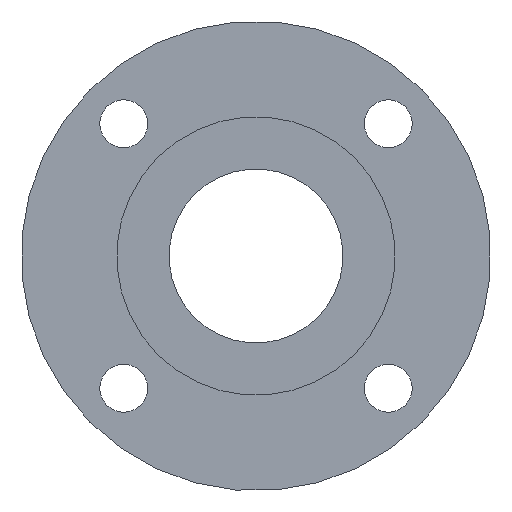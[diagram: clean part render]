
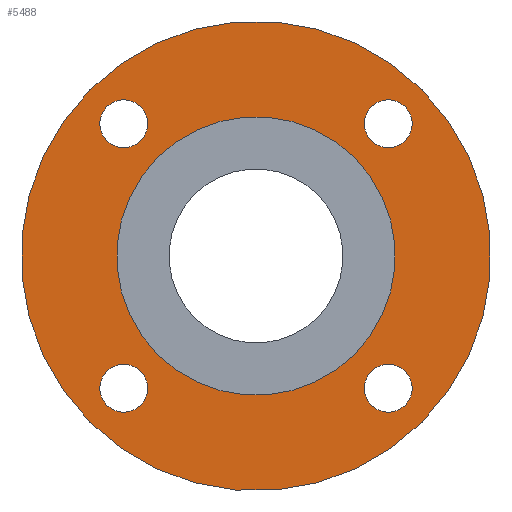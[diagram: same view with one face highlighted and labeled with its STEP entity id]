
A CAD part, left-side view. The second image highlights one B-rep face of the part: STEP entity #5488.
In plain terms, the highlighted planar face has unit normal (-1, 0, 0).
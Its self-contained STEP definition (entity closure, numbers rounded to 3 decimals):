
#109=CIRCLE('',#5838,16.);
#111=CIRCLE('',#5843,2.75);
#112=CIRCLE('',#5844,2.75);
#113=CIRCLE('',#5845,2.75);
#114=CIRCLE('',#5846,2.75);
#115=CIRCLE('',#5847,27.);
#497=ORIENTED_EDGE('',*,*,#2074,.T.);
#498=ORIENTED_EDGE('',*,*,#2075,.T.);
#499=ORIENTED_EDGE('',*,*,#2076,.T.);
#500=ORIENTED_EDGE('',*,*,#2077,.T.);
#501=ORIENTED_EDGE('',*,*,#2078,.F.);
#502=ORIENTED_EDGE('',*,*,#2072,.T.);
#2072=EDGE_CURVE('',#2862,#2862,#109,.T.);
#2074=EDGE_CURVE('',#2864,#2864,#111,.T.);
#2075=EDGE_CURVE('',#2865,#2865,#112,.T.);
#2076=EDGE_CURVE('',#2866,#2866,#113,.T.);
#2077=EDGE_CURVE('',#2867,#2867,#114,.T.);
#2078=EDGE_CURVE('',#2868,#2868,#115,.T.);
#2862=VERTEX_POINT('',#8705);
#2864=VERTEX_POINT('',#8712);
#2865=VERTEX_POINT('',#8714);
#2866=VERTEX_POINT('',#8716);
#2867=VERTEX_POINT('',#8718);
#2868=VERTEX_POINT('',#8720);
#4492=EDGE_LOOP('',(#497));
#4493=EDGE_LOOP('',(#498));
#4494=EDGE_LOOP('',(#499));
#4495=EDGE_LOOP('',(#500));
#4496=EDGE_LOOP('',(#501));
#4497=EDGE_LOOP('',(#502));
#4890=FACE_BOUND('',#4492,.T.);
#4891=FACE_BOUND('',#4493,.T.);
#4892=FACE_BOUND('',#4494,.T.);
#4893=FACE_BOUND('',#4495,.T.);
#4894=FACE_BOUND('',#4496,.T.);
#4895=FACE_BOUND('',#4497,.T.);
#5236=PLANE('',#5842);
#5488=ADVANCED_FACE('',(#4890,#4891,#4892,#4893,#4894,#4895),#5236,.F.);
#5838=AXIS2_PLACEMENT_3D('',#8704,#6343,#6344);
#5842=AXIS2_PLACEMENT_3D('',#8710,#6351,#6352);
#5843=AXIS2_PLACEMENT_3D('',#8711,#6353,#6354);
#5844=AXIS2_PLACEMENT_3D('',#8713,#6355,#6356);
#5845=AXIS2_PLACEMENT_3D('',#8715,#6357,#6358);
#5846=AXIS2_PLACEMENT_3D('',#8717,#6359,#6360);
#5847=AXIS2_PLACEMENT_3D('',#8719,#6361,#6362);
#6343=DIRECTION('',(1.,0.,0.));
#6344=DIRECTION('',(0.,0.707,-0.707));
#6351=DIRECTION('',(1.,0.,0.));
#6352=DIRECTION('',(0.,0.707,-0.707));
#6353=DIRECTION('',(1.,0.,0.));
#6354=DIRECTION('',(0.,0.707,-0.707));
#6355=DIRECTION('',(1.,0.,0.));
#6356=DIRECTION('',(0.,0.707,-0.707));
#6357=DIRECTION('',(1.,0.,0.));
#6358=DIRECTION('',(0.,0.707,-0.707));
#6359=DIRECTION('',(1.,0.,0.));
#6360=DIRECTION('',(0.,0.707,-0.707));
#6361=DIRECTION('',(1.,0.,0.));
#6362=DIRECTION('',(0.,0.707,-0.707));
#8704=CARTESIAN_POINT('',(32.,0.,0.));
#8705=CARTESIAN_POINT('',(32.,11.314,-11.314));
#8710=CARTESIAN_POINT('',(32.,0.,0.));
#8711=CARTESIAN_POINT('',(32.,15.203,-15.203));
#8712=CARTESIAN_POINT('',(32.,17.147,-17.147));
#8713=CARTESIAN_POINT('',(32.,-15.203,-15.203));
#8714=CARTESIAN_POINT('',(32.,-13.258,-17.147));
#8715=CARTESIAN_POINT('',(32.,-15.203,15.203));
#8716=CARTESIAN_POINT('',(32.,-13.258,13.258));
#8717=CARTESIAN_POINT('',(32.,15.203,15.203));
#8718=CARTESIAN_POINT('',(32.,17.147,13.258));
#8719=CARTESIAN_POINT('',(32.,0.,0.));
#8720=CARTESIAN_POINT('',(32.,19.092,-19.092));
